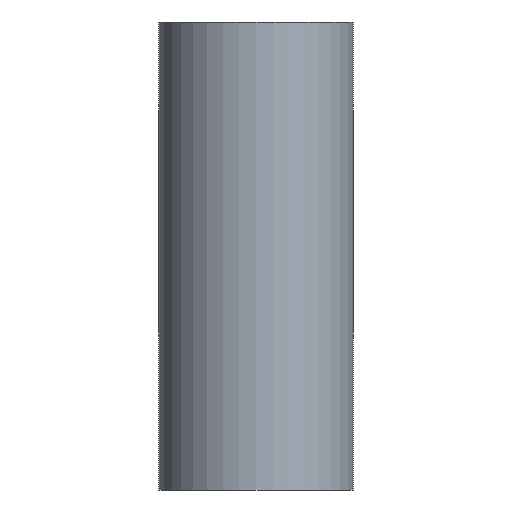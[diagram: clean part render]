
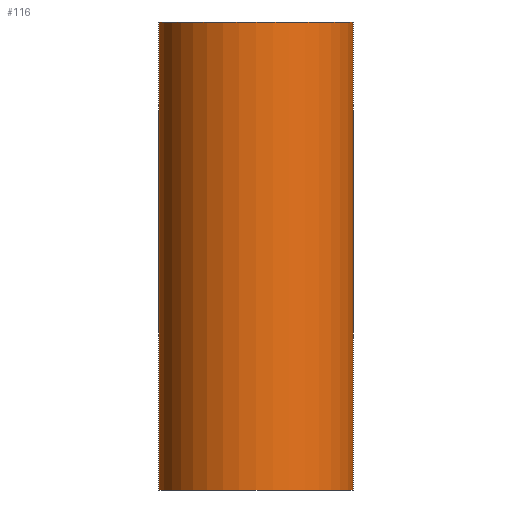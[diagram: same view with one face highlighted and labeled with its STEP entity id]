
A CAD part, left-side view. The second image highlights one B-rep face of the part: STEP entity #116.
In plain terms, the highlighted cylindrical face has radius 62.5 mm (diameter 125 mm), a full revolution.
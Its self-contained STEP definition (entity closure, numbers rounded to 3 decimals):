
#23=FACE_BOUND('',#51,.T.);
#24=FACE_BOUND('',#52,.T.);
#30=CIRCLE('',#151,62.5);
#31=CIRCLE('',#153,62.5);
#37=FACE_OUTER_BOUND('',#50,.T.);
#50=EDGE_LOOP('',(#93));
#51=EDGE_LOOP('',(#94,#95));
#52=EDGE_LOOP('',(#96));
#57=ELLIPSE('',#146,163.32,62.5);
#58=ELLIPSE('',#147,67.65,62.5);
#64=VERTEX_POINT('',#205);
#65=VERTEX_POINT('',#206);
#67=VERTEX_POINT('',#213);
#68=VERTEX_POINT('',#216);
#74=EDGE_CURVE('',#64,#65,#57,.T.);
#75=EDGE_CURVE('',#65,#64,#58,.T.);
#77=EDGE_CURVE('',#67,#67,#30,.T.);
#78=EDGE_CURVE('',#68,#68,#31,.T.);
#93=ORIENTED_EDGE('',*,*,#77,.T.);
#94=ORIENTED_EDGE('',*,*,#75,.T.);
#95=ORIENTED_EDGE('',*,*,#74,.T.);
#96=ORIENTED_EDGE('',*,*,#78,.F.);
#102=CYLINDRICAL_SURFACE('',#152,62.5);
#116=ADVANCED_FACE('',(#37,#23,#24),#102,.T.);
#146=AXIS2_PLACEMENT_3D('',#207,#173,#174);
#147=AXIS2_PLACEMENT_3D('',#208,#175,#176);
#151=AXIS2_PLACEMENT_3D('',#214,#183,#184);
#152=AXIS2_PLACEMENT_3D('',#215,#185,#186);
#153=AXIS2_PLACEMENT_3D('',#217,#187,#188);
#173=DIRECTION('center_axis',(-0.924,0.,0.383));
#174=DIRECTION('ref_axis',(-0.383,0.,-0.924));
#175=DIRECTION('center_axis',(-0.383,0.,-0.924));
#176=DIRECTION('ref_axis',(0.924,0.,-0.383));
#183=DIRECTION('center_axis',(0.,0.,-1.));
#184=DIRECTION('ref_axis',(1.,0.,0.));
#185=DIRECTION('center_axis',(0.,0.,-1.));
#186=DIRECTION('ref_axis',(-1.,0.,0.));
#187=DIRECTION('center_axis',(0.,0.,-1.));
#188=DIRECTION('ref_axis',(1.,0.,0.));
#205=CARTESIAN_POINT('',(0.,-62.5,100.));
#206=CARTESIAN_POINT('',(0.,62.5,100.));
#207=CARTESIAN_POINT('Origin',(0.,0.,100.));
#208=CARTESIAN_POINT('Origin',(0.,0.,100.));
#213=CARTESIAN_POINT('',(-62.5,0.,300.));
#214=CARTESIAN_POINT('Origin',(0.,0.,300.));
#215=CARTESIAN_POINT('Origin',(0.,0.,150.));
#216=CARTESIAN_POINT('',(-62.5,0.,0.));
#217=CARTESIAN_POINT('Origin',(0.,0.,0.));
